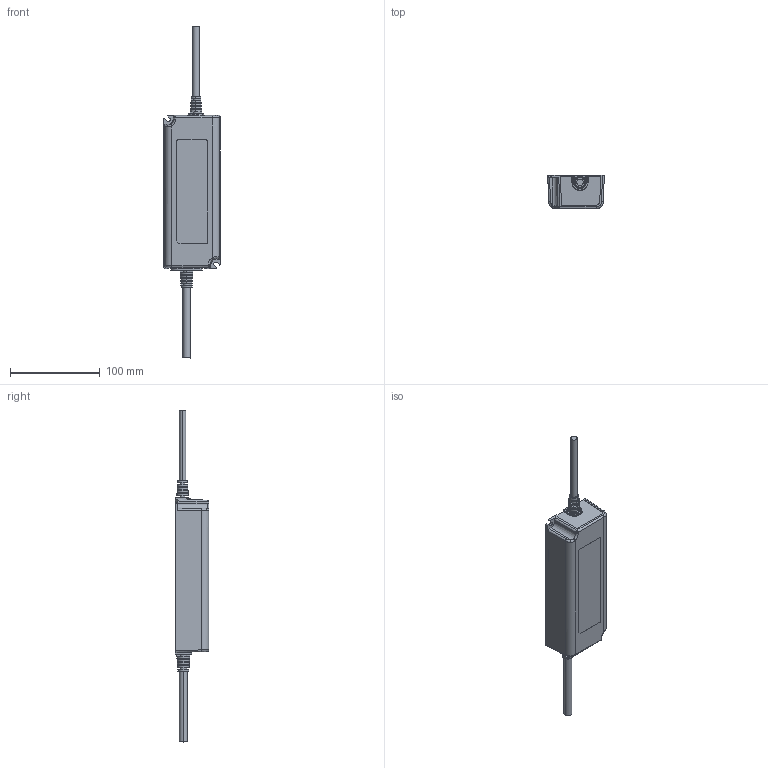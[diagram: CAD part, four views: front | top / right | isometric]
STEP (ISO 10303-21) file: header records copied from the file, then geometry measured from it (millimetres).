
FILE_DESCRIPTION((''),'2;1');
FILE_NAME('PWM-90_ASM','2026-06-03T10:21:09',('shalinice'),(''),'CREO PARAMETRIC BY PTC INC, 2017110','CREO PARAMETRIC BY PTC INC, 2017110','');
FILE_SCHEMA(('AUTOMOTIVE_DESIGN { 1 0 10303 214 1 1 1 1 }'));
Length unit declared in the file: millimetre
Products named in the file (5): 1XX3PWM-90P-T; 1XX3PWM-90P-D; NEW-SR_1_1_1_1_1_1; P2; PWM-90_ASM
Assembly tree (4 placements, depth 2):
  PWM-90_ASM
    1XX3PWM-90P-T
    1XX3PWM-90P-D
    NEW-SR_1_1_1_1_1_1
    P2
Bounding box: 63.03 x 37.5 x 369.82 mm (x, y, z)
Volume: 90941.5 mm3; surface area: 84842.4 mm2
Topology: 4 solids, 4 shells, 987 faces, 2715 edges, 1762 vertices
Faces by surface type: plane 678, cylinder 221, cone 37, sphere 24, bspline 16, torus 10, extrusion 1
Entity records: 40101 total; most frequent: CARTESIAN_POINT 7730, ORIENTED_EDGE 5382, DIRECTION 4974, EDGE_CURVE 2691, VECTOR 1936, LINE 1935, VERTEX_POINT 1762, AXIS2_PLACEMENT_3D 1519
